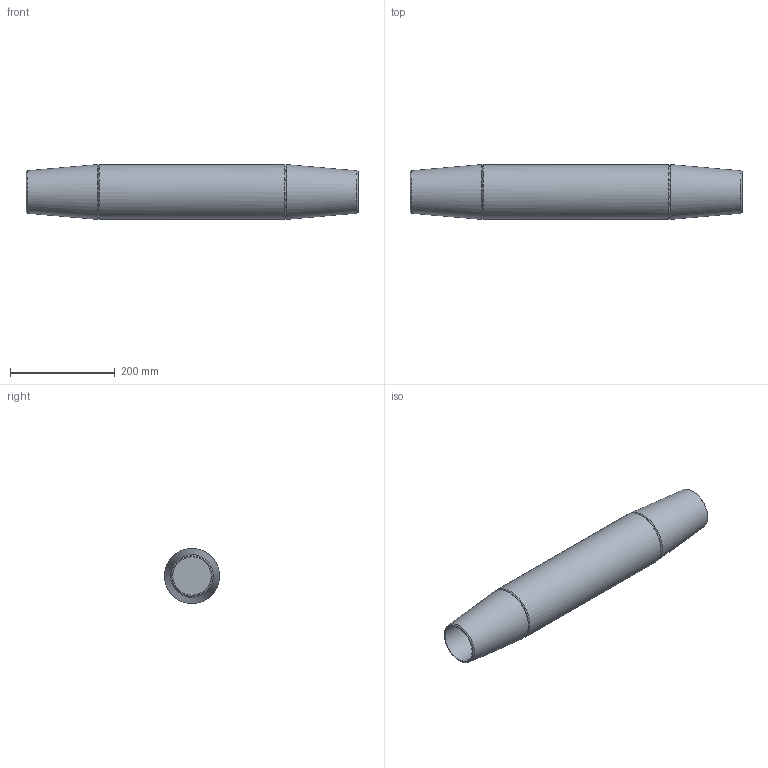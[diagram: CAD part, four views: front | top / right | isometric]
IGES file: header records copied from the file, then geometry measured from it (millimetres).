
Global section: file name: 520-070-MUF; native system: Autodesk Inventor 2016; preprocessor: unknown; author: Administrator; date: 20200630.132053; units: centimetre
Bounding box: 634 x 105 x 104.93 mm (x, y, z)
Volume: 4117837.6 mm3; surface area: 256971.2 mm2
Topology: 1 solids, 1 shells, 15 faces, 37 edges, 26 vertices
Faces by surface type: bspline 15
